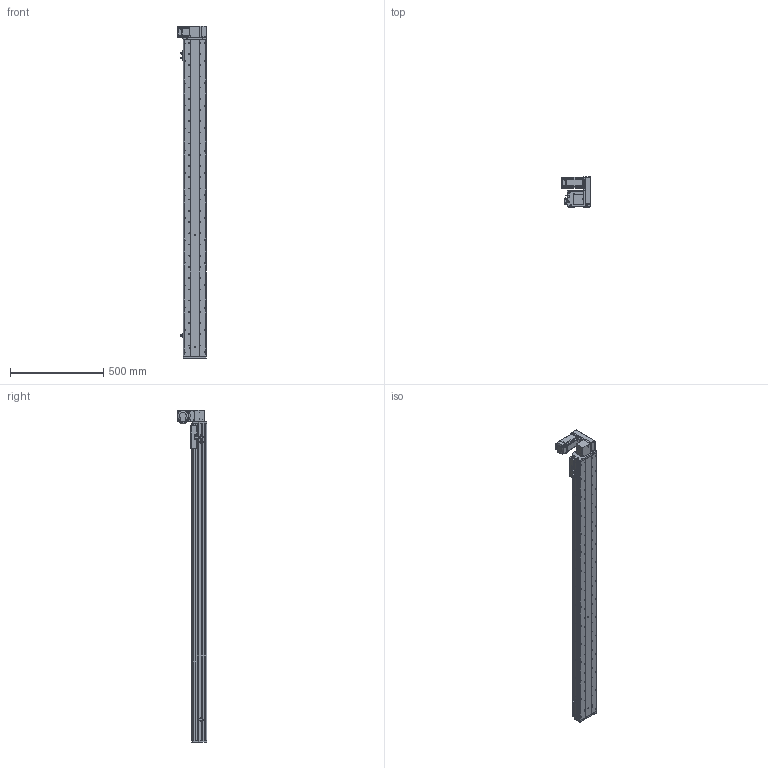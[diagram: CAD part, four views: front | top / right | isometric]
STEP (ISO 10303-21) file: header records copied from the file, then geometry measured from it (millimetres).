
FILE_DESCRIPTION (( 'STEP AP214' ), '1' );
FILE_NAME ('KSD125B-S1500-MLU-CM.STEP', '2017-10-21T03:40:32', ( '微软用户' ), ( '微软中国' ), 'SwSTEP 2.0', 'SolidWorks 2014', '' );
FILE_SCHEMA (( 'AUTOMOTIVE_DESIGN' ));
Length unit declared in the file: millimetre
Products named in the file (17): KSD125模组同步带-防撞垫1; 前端板-125宽模组同步带; 125模组同步带-尾端板1; KSD125模组同步带-滑动座1; KSD125B-S1500-MLU-CM; 悵誘欶奻狟殏; 100宽马达安装板连板上下折丝杆同步带; HTPA30S3M150_A_H6_a佪裝蚚; HTPA30S3M150_A_H6_a萇儂蚚; 100宽马达安装板同步带左; KSD125模组1500行程同步带-防尘盖; 125模组1500行程同步带-底板; MHMD042G1CA_2_03; KSD125模组同步带-防撞垫2; 覜茼え68遵圉猾敕; U倰嫖萇假蚾璃; U倰嫖萇EEㄜSX672
Assembly tree (20 placements, depth 2):
  KSD125B-S1500-MLU-CM
    KSD125模组同步带-滑动座1
    125模组同步带-尾端板1
    前端板-125宽模组同步带
    KSD125模组同步带-防撞垫1
    U倰嫖萇EEㄜSX672  x3
    U倰嫖萇假蚾璃  x3
    覜茼え68遵圉猾敕
    KSD125模组同步带-防撞垫2
    MHMD042G1CA_2_03
    125模组1500行程同步带-底板
    KSD125模组1500行程同步带-防尘盖
    100宽马达安装板同步带左
    HTPA30S3M150_A_H6_a萇儂蚚
    HTPA30S3M150_A_H6_a佪裝蚚
    100宽马达安装板连板上下折丝杆同步带
    悵誘欶奻狟殏
Bounding box: 155 x 157.5 x 1777 mm (x, y, z)
Volume: 5257825.6 mm3; surface area: 1742590.6 mm2
Topology: 19 solids, 22 shells, 2397 faces, 6955 edges, 4598 vertices
Faces by surface type: cylinder 1532, plane 738, cone 105, bspline 22
Entity records: 85901 total; most frequent: CARTESIAN_POINT 16905, DIRECTION 13340, ORIENTED_EDGE 12430, EDGE_CURVE 6293, AXIS2_PLACEMENT_3D 5181, VERTEX_POINT 4190, CIRCLE 3002, LINE 2978
